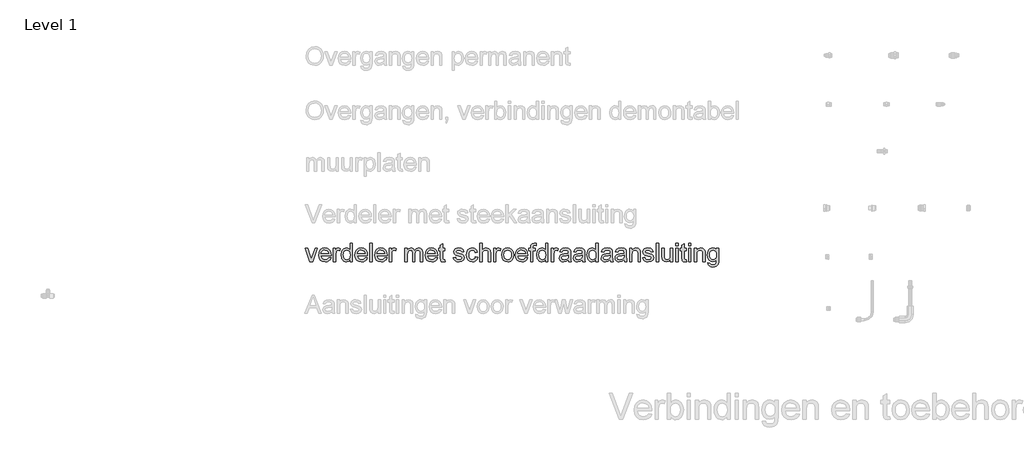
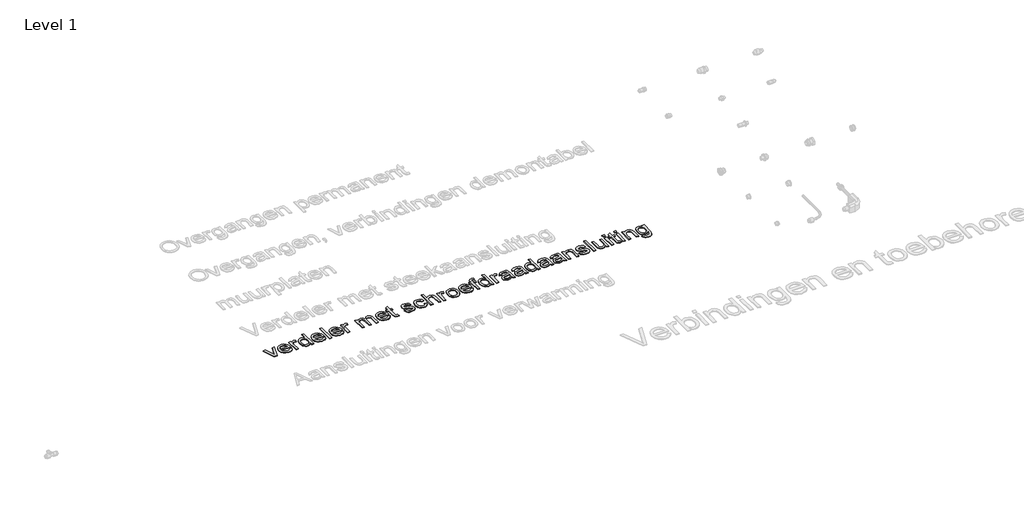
# One storey, part 7 of 9: 1 proxy.
"""IFC4 building model written with IfcOpenShell, lengths in millimetres."""

from ifc_helpers import new_model, si_unit, origin, origin_with_axes, place, context, project, spatial, polyline, outline, extrude, element, save

model = new_model("IFC4")

# Units and contexts
model_context = context("Model", 3, world=origin())
ifc_project = project(units=[si_unit("LENGTHUNIT", "METRE", prefix="MILLI")], contexts=[model_context])

# Site, building, storey
site = spatial("IfcSite", under=ifc_project)
building = spatial("IfcBuilding", under=site)
storey = spatial("IfcBuildingStorey", under=building, Name="Level 1", Elevation=0.0)

# Proxy
placement = place(None, origin())
element("IfcBuildingElementProxy", 1, Name="small", ObjectType="small", at=placement, inside=storey, context=model_context, shape_type="SweptSolid", body=[
    extrude(outline(polyline([(3486.3332131, 4072.8496905), (3450.0060924, 4176.1313344), (3468.6160162, 4176.1313344), (3490.6251697, 4114.2584879), (3497.2519507, 4093.4510822), (3503.7413891, 4113.0910757), (3525.8878852, 4176.1313344), (3544.4978091, 4176.1313344), (3508.6170518, 4072.8496905), (3486.3332131, 4072.8496905)])), origin_with_axes(), (0.0, 0.0, 1.0), 5.0),
    extrude(outline(polyline([(3632.1910665, 4103.6144355), (3649.4275643, 4101.4169537), (3643.2171031, 4088.429493), (3633.3069753, 4078.7210871), (3619.9203626, 4072.6694283), (3603.2804468, 4070.6522087), (3582.6533034, 4074.1329855), (3566.7816478, 4084.5753159), (3556.6612141, 4101.3010708), (3553.2877362, 4123.6321211), (3556.6955498, 4146.7142637), (3566.9189904, 4163.9765132), (3582.5760481, 4174.7407404), (3602.2847129, 4178.3288161), (3621.3796278, 4174.7493243), (3636.6375336, 4164.0108489), (3646.6420845, 4146.782935), (3649.9769347, 4123.7351281), (3649.8739278, 4118.996808), (3570.8675905, 4118.996808), (3573.9105877, 4105.837669), (3580.9794403, 4096.1635988), (3591.1814211, 4090.2149469), (3603.6238034, 4088.232063), (3620.8603011, 4091.9059778), (3632.1910665, 4103.6144355)]), holes=[polyline([(3570.8675905, 4136.5766622), (3632.3970805, 4136.5766622), (3625.3582716, 4152.5084052), (3615.1090792, 4158.6888227), (3602.2160416, 4160.7489619), (3590.3659494, 4159.1051425), (3580.5674124, 4154.1736843), (3573.7560773, 4146.48679), (3570.8675905, 4136.5766622)])]), origin_with_axes(), (0.0, 0.0, 1.0), 5.0),
    extrude(outline(polyline([(3667.556789, 4072.8496905), (3667.556789, 4176.1313344), (3682.9391615, 4176.1313344), (3682.9391615, 4160.8519688), (3693.8578991, 4174.9295865), (3704.845308, 4178.3288161), (3722.4938336, 4172.903783), (3716.622437, 4157.1437183), (3704.261602, 4160.7489619), (3694.3214304, 4157.2810609), (3687.9865025, 4147.6670781), (3685.1366433, 4127.1343577), (3685.1366433, 4072.8496905), (3667.556789, 4072.8496905)])), origin_with_axes(), (0.0, 0.0, 1.0), 5.0),
    extrude(outline(polyline([(3797.2082143, 4072.8496905), (3797.2082143, 4089.4338108), (3785.5770119, 4075.3476092), (3769.4993424, 4070.6522087), (3758.1342413, 4072.3518235), (3747.7305385, 4077.450668), (3738.9234435, 4085.5925097), (3732.348166, 4096.4211162), (3726.8887972, 4124.3875055), (3731.9189703, 4152.3710626), (3738.2023948, 4163.4700624), (3746.992322, 4171.6333638), (3757.6234985, 4176.6549531), (3769.4306711, 4178.3288161), (3785.6370993, 4173.5389926), (3797.2082143, 4161.0923184), (3797.2082143, 4213.4885247), (3814.7880686, 4213.4885247), (3814.7880686, 4072.8496905), (3797.2082143, 4072.8496905)]), holes=[polyline([(3744.4686515, 4124.4561768), (3746.4515354, 4108.5544775), (3752.4001873, 4097.2451719), (3761.0441879, 4090.4853402), (3771.1131181, 4088.232063), (3781.1777564, 4090.3823332), (3789.6028672, 4096.833144), (3795.3068775, 4107.7046701), (3797.2082143, 4123.1170863), (3795.2725419, 4139.967308), (3789.4655246, 4151.6500138), (3780.8258159, 4158.4742249), (3770.3920694, 4160.7489619), (3760.2201322, 4158.5643559), (3751.8851525, 4152.0105382), (3746.3227767, 4140.752736), (3744.4686515, 4124.4561768)])]), origin_with_axes(), (0.0, 0.0, 1.0), 5.0),
    extrude(outline(polyline([(3913.468735, 4103.6144355), (3930.7052327, 4101.4169537), (3924.4947715, 4088.429493), (3914.5846437, 4078.7210871), (3901.198031, 4072.6694283), (3884.5581152, 4070.6522087), (3863.9309718, 4074.1329855), (3848.0593162, 4084.5753159), (3837.9388825, 4101.3010708), (3834.5654046, 4123.6321211), (3837.9732182, 4146.7142637), (3848.1966588, 4163.9765132), (3863.8537166, 4174.7407404), (3883.5623813, 4178.3288161), (3902.6572963, 4174.7493243), (3917.915202, 4164.0108489), (3927.9197529, 4146.782935), (3931.2546032, 4123.7351281), (3931.1515962, 4118.996808), (3852.1452589, 4118.996808), (3855.1882562, 4105.837669), (3862.2571087, 4096.1635988), (3872.4590896, 4090.2149469), (3884.9014718, 4088.232063), (3902.1379695, 4091.9059778), (3913.468735, 4103.6144355)]), holes=[polyline([(3852.1452589, 4136.5766622), (3913.6747489, 4136.5766622), (3906.63594, 4152.5084052), (3896.3867477, 4158.6888227), (3883.49371, 4160.7489619), (3871.6436178, 4159.1051425), (3861.8450809, 4154.1736843), (3855.0337457, 4146.48679), (3852.1452589, 4136.5766622)])]), origin_with_axes(), (0.0, 0.0, 1.0), 5.0),
    extrude(outline(polyline([(3948.8344574, 4072.8496905), (3948.8344574, 4213.4885247), (3966.4143117, 4213.4885247), (3966.4143117, 4072.8496905), (3948.8344574, 4072.8496905)])), origin_with_axes(), (0.0, 0.0, 1.0), 5.0),
    extrude(outline(polyline([(4065.0949781, 4103.6144355), (4082.3314758, 4101.4169537), (4076.1210146, 4088.429493), (4066.2108868, 4078.7210871), (4052.8242742, 4072.6694283), (4036.1843584, 4070.6522087), (4015.5572149, 4074.1329855), (3999.6855594, 4084.5753159), (3989.5651257, 4101.3010708), (3986.1916478, 4123.6321211), (3989.5994613, 4146.7142637), (3999.822902, 4163.9765132), (4015.4799597, 4174.7407404), (4035.1886244, 4178.3288161), (4054.2835394, 4174.7493243), (4069.5414451, 4164.0108489), (4079.545996, 4146.782935), (4082.8808463, 4123.7351281), (4082.7778393, 4118.996808), (4003.7715021, 4118.996808), (4006.8144993, 4105.837669), (4013.8833518, 4096.1635988), (4024.0853327, 4090.2149469), (4036.5277149, 4088.232063), (4053.7642126, 4091.9059778), (4065.0949781, 4103.6144355)]), holes=[polyline([(4003.7715021, 4136.5766622), (4065.300992, 4136.5766622), (4058.2621832, 4152.5084052), (4048.0129908, 4158.6888227), (4035.1199531, 4160.7489619), (4023.2698609, 4159.1051425), (4013.471324, 4154.1736843), (4006.6599888, 4146.48679), (4003.7715021, 4136.5766622)])]), origin_with_axes(), (0.0, 0.0, 1.0), 5.0),
    extrude(outline(polyline([(4100.4607006, 4072.8496905), (4100.4607006, 4176.1313344), (4115.8430731, 4176.1313344), (4115.8430731, 4160.8519688), (4126.7618107, 4174.9295865), (4137.7492196, 4178.3288161), (4155.3977452, 4172.903783), (4149.5263485, 4157.1437183), (4137.1655135, 4160.7489619), (4127.225342, 4157.2810609), (4120.890414, 4147.6670781), (4118.0405548, 4127.1343577), (4118.0405548, 4072.8496905), (4100.4607006, 4072.8496905)])), origin_with_axes(), (0.0, 0.0, 1.0), 5.0),
    extrude(outline(polyline([(4221.3221987, 4072.8496905), (4221.3221987, 4176.1313344), (4238.902053, 4176.1313344), (4238.902053, 4159.1351862), (4250.9882028, 4173.0582934), (4268.1903649, 4178.3288161), (4285.8045548, 4172.9552865), (4295.4872089, 4157.8991027), (4309.2043023, 4173.2213878), (4326.5266392, 4178.3288161), (4339.7415736, 4176.2042976), (4349.5143588, 4169.830742), (4355.5531417, 4159.0364712), (4357.5660694, 4143.6498067), (4357.5660694, 4072.8496905), (4339.9862151, 4072.8496905), (4339.9862151, 4136.0959631), (4338.3552716, 4150.7744547), (4332.4495393, 4158.0021096), (4322.4063608, 4160.7489619), (4312.8825091, 4158.9892596), (4305.1183596, 4153.710153), (4299.9551358, 4144.5511176), (4298.2340612, 4131.1516291), (4298.2340612, 4072.8496905), (4280.6542069, 4072.8496905), (4280.6542069, 4138.0530953), (4276.585432, 4155.0835791), (4271.2161943, 4159.3326162), (4263.2460309, 4160.7489619), (4250.2328184, 4156.97204), (4241.5802339, 4145.9159598), (4238.902053, 4124.9368759), (4238.902053, 4072.8496905), (4221.3221987, 4072.8496905)])), origin_with_axes(), (0.0, 0.0, 1.0), 5.0),
    extrude(outline(polyline([(4456.2467357, 4103.6144355), (4473.4832335, 4101.4169537), (4467.2727723, 4088.429493), (4457.3626445, 4078.7210871), (4443.9760318, 4072.6694283), (4427.336116, 4070.6522087), (4406.7089725, 4074.1329855), (4390.837317, 4084.5753159), (4380.7168833, 4101.3010708), (4377.3434054, 4123.6321211), (4380.751219, 4146.7142637), (4390.9746596, 4163.9765132), (4406.6317173, 4174.7407404), (4426.3403821, 4178.3288161), (4445.435297, 4174.7493243), (4460.6932028, 4164.0108489), (4470.6977537, 4146.782935), (4474.0326039, 4123.7351281), (4473.929597, 4118.996808), (4394.9232597, 4118.996808), (4397.9662569, 4105.837669), (4405.0351095, 4096.1635988), (4415.2370903, 4090.2149469), (4427.6794725, 4088.232063), (4444.9159703, 4091.9059778), (4456.2467357, 4103.6144355)]), holes=[polyline([(4394.9232597, 4136.5766622), (4456.4527497, 4136.5766622), (4449.4139408, 4152.5084052), (4439.1647484, 4158.6888227), (4426.2717108, 4160.7489619), (4414.4216186, 4159.1051425), (4404.6230816, 4154.1736843), (4397.8117465, 4146.48679), (4394.9232597, 4136.5766622)])]), origin_with_axes(), (0.0, 0.0, 1.0), 5.0),
    extrude(outline(polyline([(4528.9696486, 4087.5110143), (4531.1671303, 4072.3346557), (4518.0165753, 4070.6522087), (4503.2865802, 4073.5707392), (4495.9387505, 4081.2275898), (4493.80994, 4101.1766041), (4493.80994, 4158.5514801), (4480.6250493, 4158.5514801), (4480.6250493, 4176.1313344), (4493.80994, 4176.1313344), (4493.80994, 4201.2306966), (4511.3897943, 4211.5657281), (4511.3897943, 4176.1313344), (4528.9696486, 4176.1313344), (4528.9696486, 4158.5514801), (4511.3897943, 4158.5514801), (4511.3897943, 4101.6916389), (4512.3168569, 4092.6270265), (4515.3212265, 4089.416643), (4521.312798, 4088.232063), (4528.9696486, 4087.5110143)])), origin_with_axes(), (0.0, 0.0, 1.0), 5.0),
    extrude(outline(polyline([(4594.8941021, 4103.6144355), (4612.4739564, 4105.8119172), (4615.2465603, 4098.2924093), (4620.6115061, 4092.7643692), (4639.2557656, 4088.232063), (4657.1789764, 4092.386677), (4663.0160374, 4102.1380024), (4657.1446408, 4110.0352026), (4639.0497517, 4115.0482079), (4612.5769633, 4123.6492889), (4601.0230161, 4133.6924674), (4597.0915839, 4147.873092), (4600.2504639, 4160.9721436), (4608.8687128, 4170.9809864), (4620.0449678, 4176.1828378), (4635.1698229, 4178.3288161), (4656.5609347, 4174.878083), (4670.1578532, 4165.5387854), (4676.2009281, 4149.7615529), (4658.6210738, 4147.5640712), (4652.0114607, 4157.2638931), (4636.543249, 4160.7489619), (4619.7187791, 4157.4184035), (4614.6714381, 4149.658546), (4616.765913, 4144.5425337), (4623.3240227, 4140.6626049), (4638.4660456, 4136.9200188), (4664.2692887, 4128.6451264), (4676.2524316, 4119.2714932), (4680.5958917, 4103.9921276), (4675.4970472, 4087.1676577), (4660.78422, 4074.9613331), (4639.015416, 4070.6522087), (4621.2896352, 4072.7295157), (4608.353678, 4078.9614367), (4599.7182613, 4089.2793004), (4594.8941021, 4103.6144355)])), origin_with_axes(), (0.0, 0.0, 1.0), 5.0),
    extrude(outline(polyline([(4766.2976813, 4110.2068808), (4783.8775356, 4108.009399), (4778.9761211, 4092.3738011), (4769.7655822, 4080.5580446), (4757.1128941, 4073.1286677), (4741.8850321, 4070.6522087), (4723.1849771, 4074.1072338), (4708.562281, 4084.472309), (4699.1242684, 4101.2924869), (4695.9782642, 4124.1128202), (4701.3517939, 4153.315293), (4708.1330853, 4164.2640743), (4717.7299003, 4172.0797273), (4729.2108842, 4176.7665439), (4741.6446825, 4178.3288161), (4756.4991443, 4176.1828378), (4768.3749883, 4169.7449029), (4776.8945222, 4159.3583679), (4781.6800538, 4145.3665894), (4764.1001995, 4143.1691076), (4755.9454819, 4156.3368305), (4741.7820251, 4160.7489619), (4730.421216, 4158.5772318), (4721.4038151, 4152.0620417), (4715.5195426, 4140.851451), (4713.5581185, 4124.5935194), (4715.4766231, 4108.1166979), (4721.2321369, 4096.8674797), (4730.0864434, 4090.3909171), (4741.301326, 4088.232063), (4757.8682785, 4093.6227605), (4763.2976036, 4100.4641393), (4766.2976813, 4110.2068808)])), origin_with_axes(), (0.0, 0.0, 1.0), 5.0),
    extrude(outline(polyline([(4799.259908, 4072.8496905), (4799.259908, 4213.4885247), (4816.8397623, 4213.4885247), (4816.8397623, 4161.7790314), (4830.5482717, 4174.19137), (4847.432829, 4178.3288161), (4867.1758295, 4173.8136778), (4879.1589723, 4161.332668), (4882.7642159, 4138.2247736), (4882.7642159, 4072.8496905), (4865.1843616, 4072.8496905), (4865.1843616, 4136.404984), (4863.7851837, 4147.4095607), (4859.5876502, 4154.9462365), (4852.8235265, 4159.2982805), (4843.7245785, 4160.7489619), (4829.3207721, 4156.8346974), (4819.7067893, 4146.2249807), (4816.8397623, 4127.7180638), (4816.8397623, 4072.8496905), (4799.259908, 4072.8496905)])), origin_with_axes(), (0.0, 0.0, 1.0), 5.0),
    extrude(outline(polyline([(4906.9365155, 4072.8496905), (4906.9365155, 4176.1313344), (4922.318888, 4176.1313344), (4922.318888, 4160.8519688), (4933.2376256, 4174.9295865), (4944.2250345, 4178.3288161), (4961.8735601, 4172.903783), (4956.0021635, 4157.1437183), (4943.6413284, 4160.7489619), (4933.7011569, 4157.2810609), (4927.366229, 4147.6670781), (4924.5163698, 4127.1343577), (4924.5163698, 4072.8496905), (4906.9365155, 4072.8496905)])), origin_with_axes(), (0.0, 0.0, 1.0), 5.0),
    extrude(outline(polyline([(4968.4660055, 4124.4905124), (4972.268679, 4149.3924447), (4983.6766997, 4166.8950437), (4997.7714852, 4175.470373), (5014.6474586, 4178.3288161), (5033.1157479, 4174.8480393), (5047.8672027, 4164.4057089), (5057.536981, 4147.8258805), (5060.7602404, 4125.9326098), (5059.3353108, 4108.1724934), (5055.060522, 4094.6528301), (5048.0603408, 4084.5281044), (5038.4592339, 4076.952801), (5027.0555051, 4072.2273568), (5014.6474586, 4070.6522087), (4995.9559875, 4074.1201096), (4981.2217005, 4084.5238125), (4971.6549292, 4101.4512893), (4968.4660055, 4124.4905124)]), holes=[polyline([(4986.0458597, 4124.5248481), (4988.0802472, 4108.6145649), (4994.1834095, 4097.2795075), (5003.3681966, 4090.4939241), (5014.6474586, 4088.232063), (5025.8752171, 4090.5068), (5035.0428364, 4097.331011), (5041.1459987, 4108.8162869), (5043.1803861, 4125.0742185), (5041.1331228, 4140.5209704), (5034.9913329, 4151.7015173), (5025.8108377, 4158.4871007), (5014.6474586, 4160.7489619), (5003.3681966, 4158.4956846), (4994.1834095, 4151.735853), (4988.0802472, 4140.4265473), (4986.0458597, 4124.5248481)])]), origin_with_axes(), (0.0, 0.0, 1.0), 5.0),
    extrude(outline(polyline([(5152.8484614, 4103.6144355), (5170.0849592, 4101.4169537), (5163.874498, 4088.429493), (5153.9643702, 4078.7210871), (5140.5777575, 4072.6694283), (5123.9378417, 4070.6522087), (5103.3106982, 4074.1329855), (5087.4390427, 4084.5753159), (5077.318609, 4101.3010708), (5073.9451311, 4123.6321211), (5077.3529447, 4146.7142637), (5087.5763853, 4163.9765132), (5103.233443, 4174.7407404), (5122.9421078, 4178.3288161), (5142.0370227, 4174.7493243), (5157.2949285, 4164.0108489), (5167.2994793, 4146.782935), (5170.6343296, 4123.7351281), (5170.5313227, 4118.996808), (5091.5249854, 4118.996808), (5094.5679826, 4105.837669), (5101.6368352, 4096.1635988), (5111.838816, 4090.2149469), (5124.2811982, 4088.232063), (5141.517696, 4091.9059778), (5152.8484614, 4103.6144355)]), holes=[polyline([(5091.5249854, 4136.5766622), (5153.0544754, 4136.5766622), (5146.0156665, 4152.5084052), (5135.7664741, 4158.6888227), (5122.8734365, 4160.7489619), (5111.0233443, 4159.1051425), (5101.2248073, 4154.1736843), (5094.4134722, 4146.48679), (5091.5249854, 4136.5766622)])]), origin_with_axes(), (0.0, 0.0, 1.0), 5.0),
    extrude(outline(polyline([(5192.6091475, 4072.8496905), (5192.6091475, 4158.5514801), (5177.226775, 4158.5514801), (5177.226775, 4176.1313344), (5192.6091475, 4176.1313344), (5192.6091475, 4186.5350372), (5194.4632727, 4201.196361), (5203.4592138, 4211.6687351), (5221.1764107, 4215.6860065), (5237.2111606, 4213.7632099), (5234.6359866, 4197.2820965), (5224.506969, 4198.1061522), (5213.433721, 4195.1876217), (5210.1890018, 4184.3032197), (5210.1890018, 4176.1313344), (5229.9663378, 4176.1313344), (5229.9663378, 4158.5514801), (5210.1890018, 4158.5514801), (5210.1890018, 4072.8496905), (5192.6091475, 4072.8496905)])), origin_with_axes(), (0.0, 0.0, 1.0), 5.0),
    extrude(outline(polyline([(5309.0756821, 4072.8496905), (5309.0756821, 4089.4338108), (5297.4444796, 4075.3476092), (5281.3668102, 4070.6522087), (5270.0017091, 4072.3518235), (5259.5980063, 4077.450668), (5250.7909113, 4085.5925097), (5244.2156338, 4096.4211162), (5238.756265, 4124.3875055), (5243.7864381, 4152.3710626), (5250.0698626, 4163.4700624), (5258.8597897, 4171.6333638), (5269.4909662, 4176.6549531), (5281.2981389, 4178.3288161), (5297.504567, 4173.5389926), (5309.0756821, 4161.0923184), (5309.0756821, 4213.4885247), (5326.6555363, 4213.4885247), (5326.6555363, 4072.8496905), (5309.0756821, 4072.8496905)]), holes=[polyline([(5256.3361192, 4124.4561768), (5258.3190032, 4108.5544775), (5264.267655, 4097.2451719), (5272.9116557, 4090.4853402), (5282.9805859, 4088.232063), (5293.0452241, 4090.3823332), (5301.4703349, 4096.833144), (5307.1743453, 4107.7046701), (5309.0756821, 4123.1170863), (5307.1400096, 4139.967308), (5301.3329923, 4151.6500138), (5292.6932837, 4158.4742249), (5282.2595372, 4160.7489619), (5272.0876, 4158.5643559), (5263.7526203, 4152.0105382), (5258.1902445, 4140.752736), (5256.3361192, 4124.4561768)])]), origin_with_axes(), (0.0, 0.0, 1.0), 5.0),
    extrude(outline(polyline([(5353.0253177, 4072.8496905), (5353.0253177, 4176.1313344), (5368.4076902, 4176.1313344), (5368.4076902, 4160.8519688), (5379.3264279, 4174.9295865), (5390.3138368, 4178.3288161), (5407.9623624, 4172.903783), (5402.0909657, 4157.1437183), (5389.7301307, 4160.7489619), (5379.7899592, 4157.2810609), (5373.4550312, 4147.6670781), (5370.605172, 4127.1343577), (5370.605172, 4072.8496905), (5353.0253177, 4072.8496905)])), origin_with_axes(), (0.0, 0.0, 1.0), 5.0),
    extrude(outline(polyline([(5484.8742248, 4086.0345812), (5467.8265732, 4074.1201096), (5448.9934676, 4070.6522087), (5434.3021001, 4072.7380996), (5423.4649096, 4078.9957723), (5416.7823332, 4088.4981643), (5414.5548077, 4100.3182128), (5417.9197017, 4114.2241522), (5426.7611323, 4124.3188342), (5439.0704639, 4130.0872238), (5454.2811581, 4132.7310691), (5484.7712179, 4138.774144), (5484.8742248, 4142.6884084), (5483.6638931, 4150.5341051), (5480.0328978, 4155.6672852), (5471.9125159, 4159.4785427), (5460.5989182, 4160.7489619), (5442.81305, 4157.3669001), (5434.3321438, 4145.3665894), (5416.7522895, 4147.5640712), (5424.3576366, 4164.7318976), (5439.6713378, 4174.7922439), (5462.8650713, 4178.3288161), (5484.1703439, 4175.2042717), (5496.2049903, 4167.358575), (5501.5956878, 4155.4269357), (5502.4540791, 4140.0445632), (5502.4540791, 4118.1727523), (5503.3468061, 4087.631189), (5506.8490427, 4072.8496905), (5489.2691884, 4072.8496905), (5484.8742248, 4086.0345812)]), holes=[polyline([(5484.8742248, 4121.1942897), (5456.5129755, 4115.8035922), (5441.3881204, 4112.953733), (5434.5381577, 4108.3184199), (5432.134662, 4101.5542963), (5437.3708491, 4092.0433204), (5452.7360537, 4088.232063), (5470.5219219, 4092.4381804), (5481.99003, 4102.6187015), (5484.7712179, 4116.2156201), (5484.8742248, 4121.1942897)])]), origin_with_axes(), (0.0, 0.0, 1.0), 5.0),
    extrude(outline(polyline([(5592.5508323, 4086.0345812), (5575.5031806, 4074.1201096), (5556.670075, 4070.6522087), (5541.9787075, 4072.7380996), (5531.1415171, 4078.9957723), (5524.4589406, 4088.4981643), (5522.2314152, 4100.3182128), (5525.5963091, 4114.2241522), (5534.4377398, 4124.3188342), (5546.7470713, 4130.0872238), (5561.9577655, 4132.7310691), (5592.4478253, 4138.774144), (5592.5508323, 4142.6884084), (5591.3405005, 4150.5341051), (5587.7095052, 4155.6672852), (5579.5891233, 4159.4785427), (5568.2755257, 4160.7489619), (5550.4896575, 4157.3669001), (5542.0087512, 4145.3665894), (5524.4288969, 4147.5640712), (5532.0342441, 4164.7318976), (5547.3479452, 4174.7922439), (5570.5416788, 4178.3288161), (5591.8469514, 4175.2042717), (5603.8815977, 4167.358575), (5609.2722952, 4155.4269357), (5610.1306865, 4140.0445632), (5610.1306865, 4118.1727523), (5611.0234135, 4087.631189), (5614.5256501, 4072.8496905), (5596.9457958, 4072.8496905), (5592.5508323, 4086.0345812)]), holes=[polyline([(5592.5508323, 4121.1942897), (5564.189583, 4115.8035922), (5549.0647279, 4112.953733), (5542.2147651, 4108.3184199), (5539.8112694, 4101.5542963), (5545.0474565, 4092.0433204), (5560.4126612, 4088.232063), (5578.1985294, 4092.4381804), (5589.6666374, 4102.6187015), (5592.4478253, 4116.2156201), (5592.5508323, 4121.1942897)])]), origin_with_axes(), (0.0, 0.0, 1.0), 5.0),
    extrude(outline(polyline([(5698.0299579, 4072.8496905), (5698.0299579, 4089.4338108), (5686.3987555, 4075.3476092), (5670.321086, 4070.6522087), (5658.9559849, 4072.3518235), (5648.5522821, 4077.450668), (5639.7451871, 4085.5925097), (5633.1699096, 4096.4211162), (5627.7105408, 4124.3875055), (5632.740714, 4152.3710626), (5639.0241384, 4163.4700624), (5647.8140656, 4171.6333638), (5658.4452421, 4176.6549531), (5670.2524147, 4178.3288161), (5686.4588429, 4173.5389926), (5698.0299579, 4161.0923184), (5698.0299579, 4213.4885247), (5715.6098122, 4213.4885247), (5715.6098122, 4072.8496905), (5698.0299579, 4072.8496905)]), holes=[polyline([(5645.2903951, 4124.4561768), (5647.273279, 4108.5544775), (5653.2219309, 4097.2451719), (5661.8659315, 4090.4853402), (5671.9348617, 4088.232063), (5681.9995, 4090.3823332), (5690.4246108, 4096.833144), (5696.1286211, 4107.7046701), (5698.0299579, 4123.1170863), (5696.0942855, 4139.967308), (5690.2872682, 4151.6500138), (5681.6475595, 4158.4742249), (5671.213813, 4160.7489619), (5661.0418758, 4158.5643559), (5652.7068961, 4152.0105382), (5647.1445203, 4140.752736), (5645.2903951, 4124.4561768)])]), origin_with_axes(), (0.0, 0.0, 1.0), 5.0),
    extrude(outline(polyline([(5807.9040471, 4086.0345812), (5790.8563955, 4074.1201096), (5772.0232899, 4070.6522087), (5757.3319224, 4072.7380996), (5746.494732, 4078.9957723), (5739.8121555, 4088.4981643), (5737.58463, 4100.3182128), (5740.949524, 4114.2241522), (5749.7909546, 4124.3188342), (5762.1002862, 4130.0872238), (5777.3109804, 4132.7310691), (5807.8010402, 4138.774144), (5807.9040471, 4142.6884084), (5806.6937154, 4150.5341051), (5803.0627201, 4155.6672852), (5794.9423382, 4159.4785427), (5783.6287406, 4160.7489619), (5765.8428724, 4157.3669001), (5757.3619661, 4145.3665894), (5739.7821118, 4147.5640712), (5747.3874589, 4164.7318976), (5762.7011601, 4174.7922439), (5785.8948936, 4178.3288161), (5807.2001663, 4175.2042717), (5819.2348126, 4167.358575), (5824.6255101, 4155.4269357), (5825.4839014, 4140.0445632), (5825.4839014, 4118.1727523), (5826.3766284, 4087.631189), (5829.878865, 4072.8496905), (5812.2990107, 4072.8496905), (5807.9040471, 4086.0345812)]), holes=[polyline([(5807.9040471, 4121.1942897), (5779.5427979, 4115.8035922), (5764.4179428, 4112.953733), (5757.56798, 4108.3184199), (5755.1644843, 4101.5542963), (5760.4006714, 4092.0433204), (5775.765876, 4088.232063), (5793.5517442, 4092.4381804), (5805.0198523, 4102.6187015), (5807.8010402, 4116.2156201), (5807.9040471, 4121.1942897)])]), origin_with_axes(), (0.0, 0.0, 1.0), 5.0),
    extrude(outline(polyline([(5915.5806546, 4086.0345812), (5898.5330029, 4074.1201096), (5879.6998973, 4070.6522087), (5865.0085298, 4072.7380996), (5854.1713394, 4078.9957723), (5847.488763, 4088.4981643), (5845.2612375, 4100.3182128), (5848.6261315, 4114.2241522), (5857.4675621, 4124.3188342), (5869.7768936, 4130.0872238), (5884.9875879, 4132.7310691), (5915.4776476, 4138.774144), (5915.5806546, 4142.6884084), (5914.3703228, 4150.5341051), (5910.7393275, 4155.6672852), (5902.6189456, 4159.4785427), (5891.305348, 4160.7489619), (5873.5194798, 4157.3669001), (5865.0385735, 4145.3665894), (5847.4587193, 4147.5640712), (5855.0640664, 4164.7318976), (5870.3777676, 4174.7922439), (5893.5715011, 4178.3288161), (5914.8767737, 4175.2042717), (5926.91142, 4167.358575), (5932.3021175, 4155.4269357), (5933.1605089, 4140.0445632), (5933.1605089, 4118.1727523), (5934.0532358, 4087.631189), (5937.5554724, 4072.8496905), (5919.9756182, 4072.8496905), (5915.5806546, 4086.0345812)]), holes=[polyline([(5915.5806546, 4121.1942897), (5887.2194053, 4115.8035922), (5872.0945502, 4112.953733), (5865.2445875, 4108.3184199), (5862.8410918, 4101.5542963), (5868.0772788, 4092.0433204), (5883.4424835, 4088.232063), (5901.2283517, 4092.4381804), (5912.6964597, 4102.6187015), (5915.4776476, 4116.2156201), (5915.5806546, 4121.1942897)])]), origin_with_axes(), (0.0, 0.0, 1.0), 5.0),
    extrude(outline(polyline([(5957.3328085, 4072.8496905), (5957.3328085, 4176.1313344), (5974.9126628, 4176.1313344), (5974.9126628, 4161.7103601), (5988.3550709, 4174.1742021), (6006.7074773, 4178.3288161), (6023.3087655, 4174.98109), (6034.639531, 4166.1911628), (6039.9100537, 4153.2637895), (6040.8371163, 4136.2676414), (6040.8371163, 4072.8496905), (6023.257262, 4072.8496905), (6023.257262, 4133.8984813), (6021.2314585, 4149.4525321), (6014.0724749, 4157.6759209), (6002.0034929, 4160.7489619), (5991.707089, 4159.0235953), (5982.9300377, 4153.8474956), (5976.9170065, 4143.8472367), (5974.9126628, 4127.6493925), (5974.9126628, 4072.8496905), (5957.3328085, 4072.8496905)])), origin_with_axes(), (0.0, 0.0, 1.0), 5.0),
    extrude(outline(polyline([(6058.4169706, 4103.6144355), (6075.9968249, 4105.8119172), (6078.7694288, 4098.2924093), (6084.1343746, 4092.7643692), (6102.7786341, 4088.232063), (6120.7018449, 4092.386677), (6126.5389059, 4102.1380024), (6120.6675093, 4110.0352026), (6102.5726202, 4115.0482079), (6076.0998318, 4123.6492889), (6064.5458846, 4133.6924674), (6060.6144524, 4147.873092), (6063.7733324, 4160.9721436), (6072.3915813, 4170.9809864), (6083.5678363, 4176.1828378), (6098.6926914, 4178.3288161), (6120.0838032, 4174.878083), (6133.6807217, 4165.5387854), (6139.7237966, 4149.7615529), (6122.1439423, 4147.5640712), (6115.5343292, 4157.2638931), (6100.0661175, 4160.7489619), (6083.2416476, 4157.4184035), (6078.1943066, 4149.658546), (6080.2887815, 4144.5425337), (6086.8468912, 4140.6626049), (6101.9889141, 4136.9200188), (6127.7921572, 4128.6451264), (6139.7753001, 4119.2714932), (6144.1187602, 4103.9921276), (6139.0199157, 4087.1676577), (6124.3070885, 4074.9613331), (6102.5382845, 4070.6522087), (6084.8125037, 4072.7295157), (6071.8765465, 4078.9614367), (6063.2411298, 4089.2793004), (6058.4169706, 4103.6144355)])), origin_with_axes(), (0.0, 0.0, 1.0), 5.0),
    extrude(outline(polyline([(6163.8960962, 4072.8496905), (6163.8960962, 4213.4885247), (6181.4759505, 4213.4885247), (6181.4759505, 4072.8496905), (6163.8960962, 4072.8496905)])), origin_with_axes(), (0.0, 0.0, 1.0), 5.0),
    extrude(outline(polyline([(6273.7701855, 4072.8496905), (6273.7701855, 4090.601223), (6260.0015887, 4075.6394623), (6242.0440422, 4070.6522087), (6225.5114253, 4074.1544453), (6214.1119886, 4082.9443724), (6208.8758015, 4095.8889136), (6207.8457319, 4112.2326843), (6207.8457319, 4176.1313344), (6225.4255862, 4176.1313344), (6225.4255862, 4120.5075767), (6226.4899914, 4102.5843659), (6233.4429612, 4092.0604883), (6246.5420127, 4088.232063), (6261.2205043, 4092.1463274), (6270.9203263, 4102.8075476), (6273.7701855, 4122.3960376), (6273.7701855, 4176.1313344), (6291.3500397, 4176.1313344), (6291.3500397, 4072.8496905), (6273.7701855, 4072.8496905)])), origin_with_axes(), (0.0, 0.0, 1.0), 5.0),
    extrude(outline(polyline([(6315.5223394, 4195.9086704), (6315.5223394, 4213.4885247), (6333.1021936, 4213.4885247), (6333.1021936, 4195.9086704), (6315.5223394, 4195.9086704)])), origin_with_axes(), (0.0, 0.0, 1.0), 5.0),
    extrude(outline(polyline([(6315.5223394, 4072.8496905), (6315.5223394, 4176.1313344), (6333.1021936, 4176.1313344), (6333.1021936, 4072.8496905), (6315.5223394, 4072.8496905)])), origin_with_axes(), (0.0, 0.0, 1.0), 5.0),
    extrude(outline(polyline([(6396.8291654, 4087.5110143), (6399.0266472, 4072.3346557), (6385.8760921, 4070.6522087), (6371.146097, 4073.5707392), (6363.7982673, 4081.2275898), (6361.6694568, 4101.1766041), (6361.6694568, 4158.5514801), (6348.4845661, 4158.5514801), (6348.4845661, 4176.1313344), (6361.6694568, 4176.1313344), (6361.6694568, 4201.2306966), (6379.2493111, 4211.5657281), (6379.2493111, 4176.1313344), (6396.8291654, 4176.1313344), (6396.8291654, 4158.5514801), (6379.2493111, 4158.5514801), (6379.2493111, 4101.6916389), (6380.1763737, 4092.6270265), (6383.1807434, 4089.416643), (6389.1723148, 4088.232063), (6396.8291654, 4087.5110143)])), origin_with_axes(), (0.0, 0.0, 1.0), 5.0),
    extrude(outline(polyline([(6414.4090197, 4072.8496905), (6414.4090197, 4176.1313344), (6431.9888739, 4176.1313344), (6431.9888739, 4072.8496905), (6414.4090197, 4072.8496905)])), origin_with_axes(), (0.0, 0.0, 1.0), 5.0),
    extrude(outline(polyline([(6414.4090197, 4195.9086704), (6414.4090197, 4213.4885247), (6431.9888739, 4213.4885247), (6431.9888739, 4195.9086704), (6414.4090197, 4195.9086704)])), origin_with_axes(), (0.0, 0.0, 1.0), 5.0),
    extrude(outline(polyline([(6458.3586554, 4072.8496905), (6458.3586554, 4176.1313344), (6475.9385096, 4176.1313344), (6475.9385096, 4161.7103601), (6489.3809177, 4174.1742021), (6507.7333242, 4178.3288161), (6524.3346124, 4174.98109), (6535.6653778, 4166.1911628), (6540.9359005, 4153.2637895), (6541.8629632, 4136.2676414), (6541.8629632, 4072.8496905), (6524.2831089, 4072.8496905), (6524.2831089, 4133.8984813), (6522.2573054, 4149.4525321), (6515.0983218, 4157.6759209), (6503.0293398, 4160.7489619), (6492.7329359, 4159.0235953), (6483.9558846, 4153.8474956), (6477.9428534, 4143.8472367), (6475.9385096, 4127.6493925), (6475.9385096, 4072.8496905), (6458.3586554, 4072.8496905)])), origin_with_axes(), (0.0, 0.0, 1.0), 5.0),
    extrude(outline(polyline([(6561.6402992, 4064.0597633), (6579.2201535, 4061.8622816), (6584.9198719, 4052.5916553), (6601.9846914, 4048.6773908), (6619.9765735, 4053.1066901), (6628.5604867, 4065.5361964), (6629.7622346, 4086.0345812), (6617.3842317, 4076.1459132), (6602.2937122, 4072.8496905), (6584.1687795, 4076.6866997), (6570.6534081, 4088.1977273), (6562.2454651, 4105.0737007), (6559.4428175, 4125.0055472), (6564.4729906, 4152.2508878), (6570.6276564, 4163.31126), (6579.0313074, 4171.5303569), (6589.3963826, 4176.6292013), (6601.4353209, 4178.3288161), (6617.1181304, 4174.483223), (6629.7622346, 4162.9464436), (6629.7622346, 4176.1313344), (6647.3420888, 4176.1313344), (6647.3420888, 4086.9616438), (6646.140341, 4066.373128), (6642.5350974, 4052.814837), (6636.3246362, 4043.8231879), (6627.3072354, 4036.9345976), (6615.6803249, 4032.5568018), (6601.6413348, 4031.0975366), (6585.2846882, 4033.1533838), (6572.4045264, 4039.3209254), (6564.1425099, 4049.6173293), (6561.6402992, 4064.0597633)]), holes=[polyline([(6577.0226717, 4126.2072951), (6578.8982568, 4110.0824141), (6584.5250119, 4098.9962901), (6592.9844584, 4092.5712311), (6603.3581175, 4090.4295448), (6613.6545214, 4092.5583552), (6622.1568874, 4098.9447867), (6627.8608978, 4109.889276), (6629.7622346, 4125.6922603), (6627.8051023, 4140.9329982), (6621.9337057, 4151.9075312), (6613.3068729, 4158.5386042), (6603.0834323, 4160.7489619), (6593.0445458, 4158.5729399), (6584.6280188, 4152.0448739), (6578.9240085, 4141.2334352), (6577.0226717, 4126.2072951)])]), origin_with_axes(), (0.0, 0.0, 1.0), 5.0),
])

save(model, "model.ifc")
